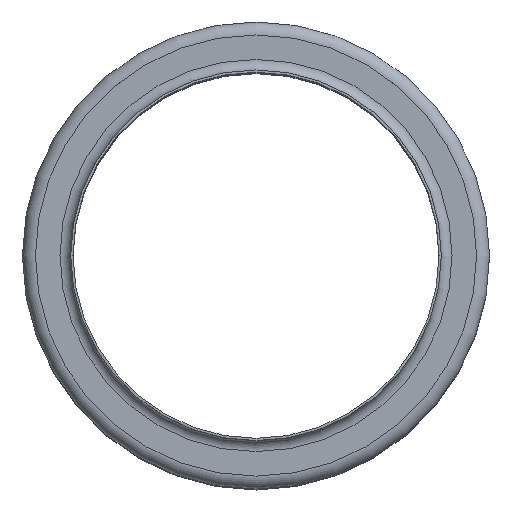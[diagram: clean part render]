
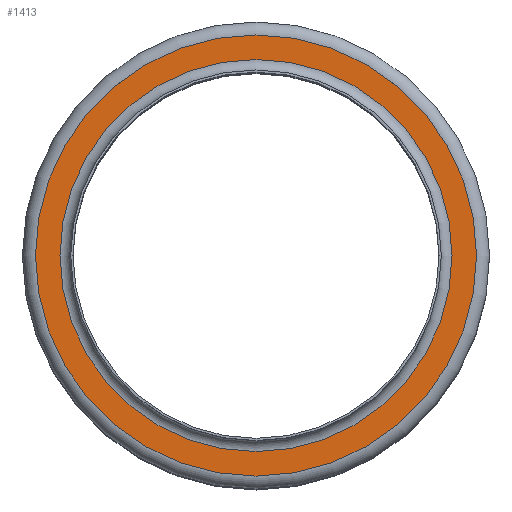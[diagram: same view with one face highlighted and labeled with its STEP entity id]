
A CAD part, top view. The second image highlights one B-rep face of the part: STEP entity #1413.
In plain terms, the highlighted planar face has unit normal (0, 0, 1).
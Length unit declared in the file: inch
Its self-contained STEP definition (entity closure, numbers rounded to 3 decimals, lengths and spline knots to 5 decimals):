
#127=FACE_BOUND('',#381,.T.);
#226=FACE_OUTER_BOUND('',#380,.T.);
#380=EDGE_LOOP('',(#1105));
#381=EDGE_LOOP('',(#1106));
#542=CIRCLE('',#1682,1.55275);
#543=CIRCLE('',#1684,1.74725);
#655=VERTEX_POINT('',#2578);
#656=VERTEX_POINT('',#2582);
#808=EDGE_CURVE('',#655,#655,#542,.T.);
#809=EDGE_CURVE('',#656,#656,#543,.T.);
#1105=ORIENTED_EDGE('',*,*,#809,.F.);
#1106=ORIENTED_EDGE('',*,*,#808,.T.);
#1203=PLANE('',#1683);
#1413=ADVANCED_FACE('',(#226,#127),#1203,.T.);
#1682=AXIS2_PLACEMENT_3D('',#2580,#2178,#2179);
#1683=AXIS2_PLACEMENT_3D('',#2581,#2180,#2181);
#1684=AXIS2_PLACEMENT_3D('',#2583,#2182,#2183);
#2178=DIRECTION('center_axis',(0.,0.,-1.));
#2179=DIRECTION('ref_axis',(1.,0.,0.));
#2180=DIRECTION('center_axis',(0.,0.,1.));
#2181=DIRECTION('ref_axis',(1.,0.,0.));
#2182=DIRECTION('center_axis',(0.,0.,-1.));
#2183=DIRECTION('ref_axis',(1.,0.,0.));
#2578=CARTESIAN_POINT('',(1.55275,0.,-0.08475));
#2580=CARTESIAN_POINT('Origin',(0.,0.,-0.08475));
#2581=CARTESIAN_POINT('Origin',(0.,1.74725,-0.08475));
#2582=CARTESIAN_POINT('',(1.74725,0.,-0.08475));
#2583=CARTESIAN_POINT('Origin',(0.,0.,-0.08475));
